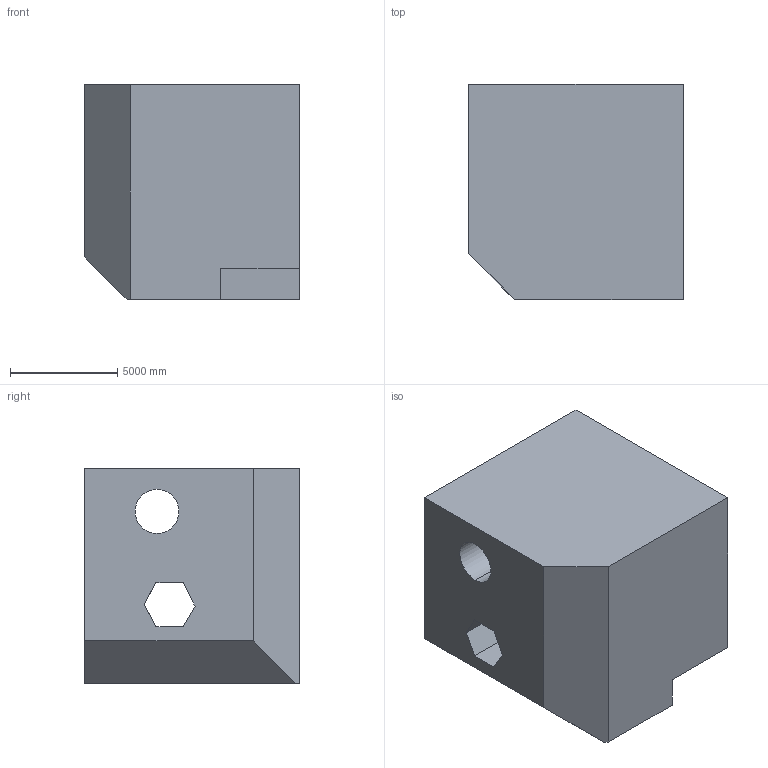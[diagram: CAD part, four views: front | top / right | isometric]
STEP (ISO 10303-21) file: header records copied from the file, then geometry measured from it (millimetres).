
FILE_DESCRIPTION (( 'STEP AP203' ), '1' );
FILE_NAME ('635.STEP', '2022-07-29T12:13:16', ( 'user' ), ( '' ), 'SwSTEP 2.0', 'SolidWorks 2021', '' );
FILE_SCHEMA (( 'CONFIG_CONTROL_DESIGN' ));
Length unit declared in the file: centimetre
Products named in the file (1): 635
Bounding box: 10000 x 10000 x 10000 mm (x, y, z)
Volume: 847885221847 mm3; surface area: 756515811.2 mm2
Topology: 1 solids, 1 shells, 30 faces, 84 edges, 56 vertices
Faces by surface type: plane 23, cylinder 7
Entity records: 1053 total; most frequent: CARTESIAN_POINT 183, ORIENTED_EDGE 168, DIRECTION 158, EDGE_CURVE 84, VECTOR 64, LINE 64, VERTEX_POINT 56, AXIS2_PLACEMENT_3D 47
